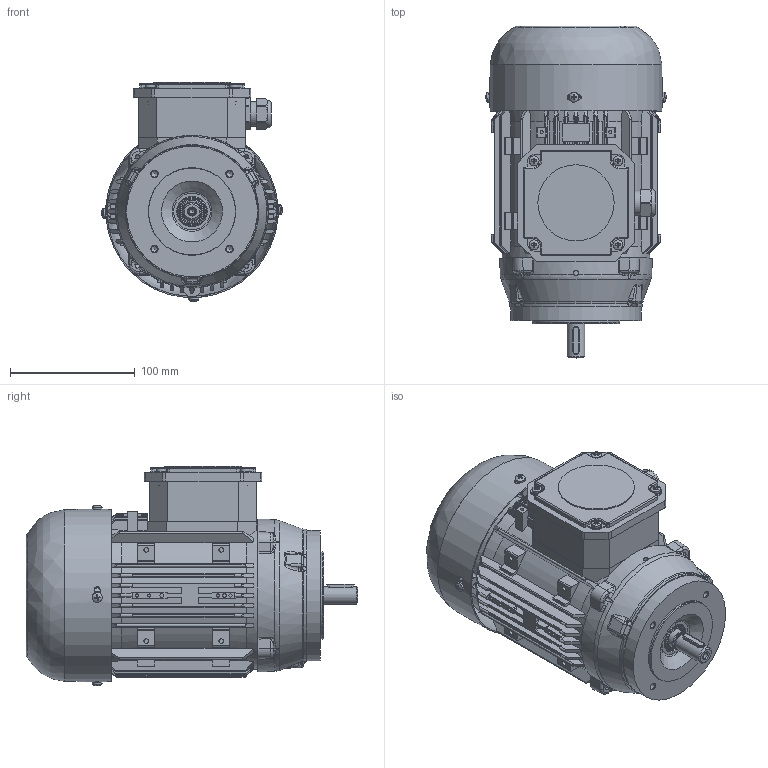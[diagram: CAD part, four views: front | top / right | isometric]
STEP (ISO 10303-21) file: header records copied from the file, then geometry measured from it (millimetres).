
FILE_DESCRIPTION(/* description */ (''),/* implementation_level */ '2;1');
FILE_NAME(/* name */ 'AR-000001620590_001-DIS-GORUNUS Q71-KT-B3 SPL.stp',/* time_stamp */ '2021-09-21T11:36:20+03:00',/* author */ (''),/* organization */ (''),/* preprocessor_version */ 'ST-DEVELOPER v16',/* originating_system */ 'SIEMENS PLM Software NX 11.0',/* authorisation */ '');
FILE_SCHEMA (('AUTOMOTIVE_DESIGN { 1 0 10303 214 3 1 1 1 }'));
Products named in the file (1): 260652D491E0rvkh
Bounding box: 144.59 x 265.66 x 175.79 mm (x, y, z)
Volume: 683677.2 mm3; surface area: 432373 mm2
Topology: 48 solids, 54 shells, 2949 faces, 7818 edges, 4956 vertices
Faces by surface type: plane 1209, cylinder 807, bspline 408, cone 300, torus 143, sphere 63, extrusion 19
Full cylindrical faces by diameter (mm): 1.7 x2, 2.5 x12, 3 x4, 3.15 x1, 3.3 x9, 3.65 x12, 3.7 x3, 4 x9, 4.2 x5, 4.5 x4, 4.6 x2, 4.65 x4, 4.8 x4, 5 x8, 5.1 x1, 5.3 x1, 5.5 x1, 8 x9, 13 x1, 13.4 x1, 14 x2, 14.3 x1, 14.4 x2, 15 x6, 15.2 x1, 15.5 x1, 16.9 x1, 18 x2, 18.5 x1, 19 x1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
Entity records: 101155 total; most frequent: CARTESIAN_POINT 31805, ORIENTED_EDGE 14442, DIRECTION 13167, EDGE_CURVE 7221, AXIS2_PLACEMENT_3D 5007, VERTEX_POINT 4836, EDGE_LOOP 3565, VECTOR 3153
